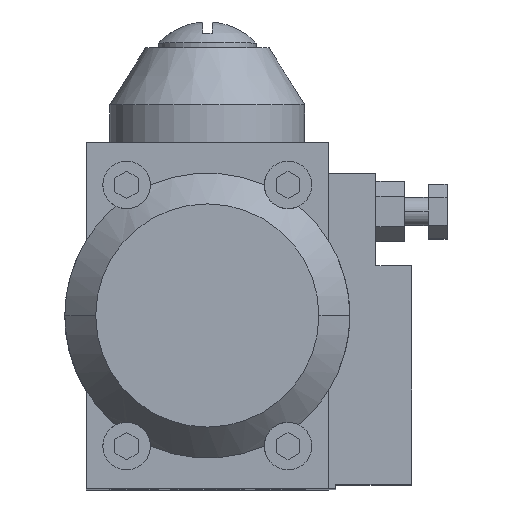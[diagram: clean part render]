
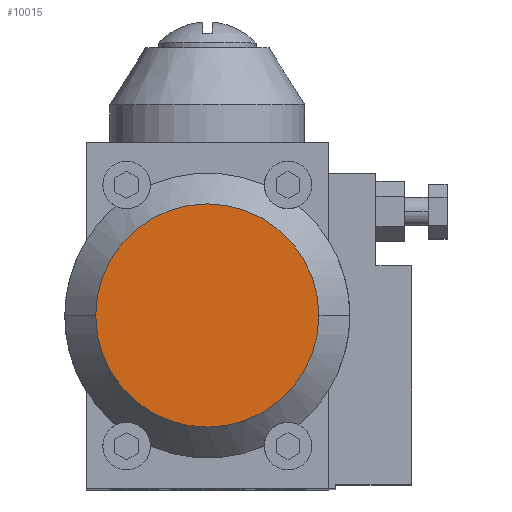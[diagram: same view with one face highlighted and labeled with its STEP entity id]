
A CAD part, top view. The second image highlights one B-rep face of the part: STEP entity #10015.
In plain terms, the highlighted planar face has unit normal (0, 0, 1).
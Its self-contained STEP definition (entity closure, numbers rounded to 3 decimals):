
#9144=CARTESIAN_POINT('',(0.,0.,73.5));
#9145=DIRECTION('',(0.,0.,-1.));
#9146=DIRECTION('',(-1.,0.,0.));
#9147=AXIS2_PLACEMENT_3D('',#9144,#9145,#9146);
#9149=CARTESIAN_POINT('',(0.,0.,73.5));
#9150=DIRECTION('',(0.,0.,-1.));
#9151=DIRECTION('',(1.,0.,0.));
#9152=AXIS2_PLACEMENT_3D('',#9149,#9150,#9151);
#9436=CARTESIAN_POINT('',(-23.5,0.,73.5));
#9437=CARTESIAN_POINT('',(23.5,0.,73.5));
#9438=VERTEX_POINT('',#9436);
#9439=VERTEX_POINT('',#9437);
#10006=CARTESIAN_POINT('',(0.,0.,73.5));
#10007=DIRECTION('',(0.,0.,1.));
#10008=DIRECTION('',(1.,0.,0.));
#10009=AXIS2_PLACEMENT_3D('',#10006,#10007,#10008);
#10010=PLANE('',#10009);
#10011=ORIENTED_EDGE('',*,*,#9751,.T.);
#10012=ORIENTED_EDGE('',*,*,#9995,.T.);
#10013=EDGE_LOOP('',(#10011,#10012));
#10014=FACE_OUTER_BOUND('',#10013,.F.);
#10015=ADVANCED_FACE('',(#10014),#10010,.T.);
#9148=CIRCLE('',#9147,23.5);
#9153=CIRCLE('',#9152,23.5);
#9751=EDGE_CURVE('',#9438,#9439,#9148,.T.);
#9995=EDGE_CURVE('',#9439,#9438,#9153,.T.);
